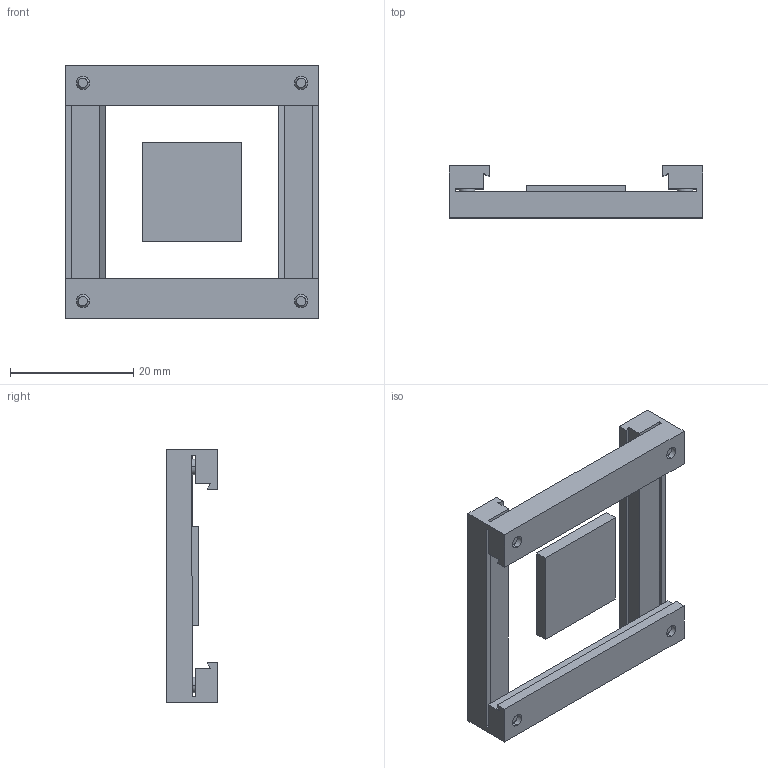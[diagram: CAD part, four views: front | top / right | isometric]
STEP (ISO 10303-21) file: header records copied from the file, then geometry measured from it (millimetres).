
FILE_DESCRIPTION (( 'STEP AP203' ), '1' );
FILE_NAME ('X-Y Verbindung dL30.STEP', '2004-11-26T15:48:32', ( '' ), ( '' ), 'SwSTEP 2.0', 'SolidWorks 2004073', '' );
FILE_SCHEMA (( 'CONFIG_CONTROL_DESIGN' ));
Length unit declared in the file: millimetre
Products named in the file (4): X-Y Verbindung dL30; Bestimmplatte-+-D007861_ _PDB_051787; X-Y Verbindung dL30-+-D009118_ _Standard; SC-912_M 2,5 x 5
Assembly tree (6 placements, depth 2):
  X-Y Verbindung dL30
    SC-912_M 2,5 x 5  x4
    Bestimmplatte-+-D007861_ _PDB_051787
    X-Y Verbindung dL30-+-D009118_ _Standard
Bounding box: 41.2 x 8.4 x 41.2 mm (x, y, z)
Volume: 4196 mm3; surface area: 5116.7 mm2
Topology: 6 solids, 6 shells, 170 faces, 392 edges, 244 vertices
Faces by surface type: plane 106, cylinder 40, cone 16, torus 8
Entity records: 3276 total; most frequent: DIRECTION 496, CARTESIAN_POINT 479, ORIENTED_EDGE 460, EDGE_CURVE 230, VECTOR 166, LINE 166, AXIS2_PLACEMENT_3D 165, VERTEX_POINT 148
